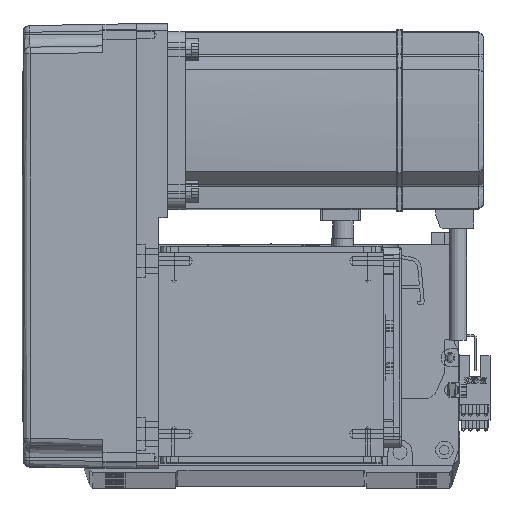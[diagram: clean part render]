
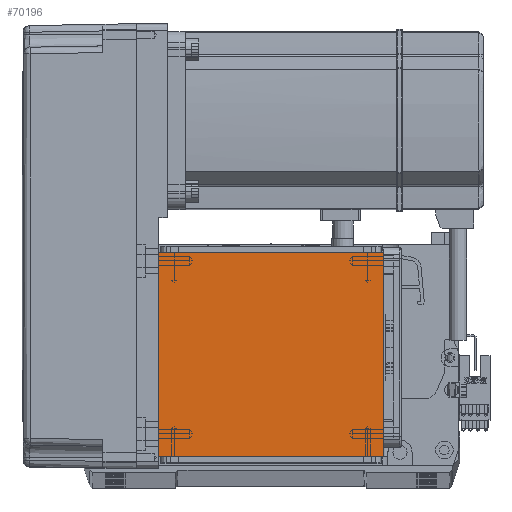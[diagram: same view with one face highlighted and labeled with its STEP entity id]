
A CAD part, top view. The second image highlights one B-rep face of the part: STEP entity #70196.
In plain terms, the highlighted planar face has unit normal (0, 0, 1).
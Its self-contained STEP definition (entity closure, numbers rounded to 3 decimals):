
#1515 = CARTESIAN_POINT ( 'NONE',  ( -70.004, 20., 115. ) ) ;
#2344 = VECTOR ( 'NONE', #7252, 1000. ) ;
#3718 = EDGE_CURVE ( 'NONE', #23242, #64120, #13127, .T. ) ;
#6314 = VECTOR ( 'NONE', #30179, 1000. ) ;
#7252 = DIRECTION ( 'NONE',  ( 0., -1., 0. ) ) ;
#7269 = ORIENTED_EDGE ( 'NONE', *, *, #67747, .T. ) ;
#11206 = PLANE ( 'NONE',  #51162 ) ;
#13127 = LINE ( 'NONE', #47074, #6314 ) ;
#13592 = CARTESIAN_POINT ( 'NONE',  ( 50.5, 122., 115. ) ) ;
#20877 = VECTOR ( 'NONE', #23373, 1000. ) ;
#21122 = CARTESIAN_POINT ( 'NONE',  ( 50.5, 20., 115. ) ) ;
#22148 = ORIENTED_EDGE ( 'NONE', *, *, #32287, .T. ) ;
#23242 = VERTEX_POINT ( 'NONE', #53898 ) ;
#23373 = DIRECTION ( 'NONE',  ( -1., 0., 0. ) ) ;
#25139 = ORIENTED_EDGE ( 'NONE', *, *, #25172, .F. ) ;
#25172 = EDGE_CURVE ( 'NONE', #52119, #60433, #46494, .T. ) ;
#27212 = CARTESIAN_POINT ( 'NONE',  ( 0., 0., 115. ) ) ;
#30179 = DIRECTION ( 'NONE',  ( 1., 0., 0. ) ) ;
#31892 = EDGE_LOOP ( 'NONE', ( #31893, #22148, #25139, #7269 ) ) ;
#31893 = ORIENTED_EDGE ( 'NONE', *, *, #3718, .F. ) ;
#32287 = EDGE_CURVE ( 'NONE', #23242, #60433, #56042, .T. ) ;
#34728 = CARTESIAN_POINT ( 'NONE',  ( 50.5, 111.5, 115. ) ) ;
#35757 = DIRECTION ( 'NONE',  ( 0., 1., 0. ) ) ;
#46494 = LINE ( 'NONE', #1515, #20877 ) ;
#47074 = CARTESIAN_POINT ( 'NONE',  ( -70.004, 111.5, 115. ) ) ;
#50153 = FACE_OUTER_BOUND ( 'NONE', #31892, .T. ) ;
#51162 = AXIS2_PLACEMENT_3D ( 'NONE', #27212, #65355, #55076 ) ;
#52119 = VERTEX_POINT ( 'NONE', #21122 ) ;
#52165 = CARTESIAN_POINT ( 'NONE',  ( -50.5, 20., 115. ) ) ;
#53898 = CARTESIAN_POINT ( 'NONE',  ( -50.5, 111.5, 115. ) ) ;
#55076 = DIRECTION ( 'NONE',  ( 1., 0., 0. ) ) ;
#56042 = LINE ( 'NONE', #61554, #2344 ) ;
#60019 = LINE ( 'NONE', #13592, #69379 ) ;
#60433 = VERTEX_POINT ( 'NONE', #52165 ) ;
#61554 = CARTESIAN_POINT ( 'NONE',  ( -50.5, 122., 115. ) ) ;
#64120 = VERTEX_POINT ( 'NONE', #34728 ) ;
#65355 = DIRECTION ( 'NONE',  ( 0., 0., 1. ) ) ;
#67747 = EDGE_CURVE ( 'NONE', #52119, #64120, #60019, .T. ) ;
#69379 = VECTOR ( 'NONE', #35757, 1000. ) ;
#70196 = ADVANCED_FACE ( 'NONE', ( #50153 ), #11206, .T. ) ;
